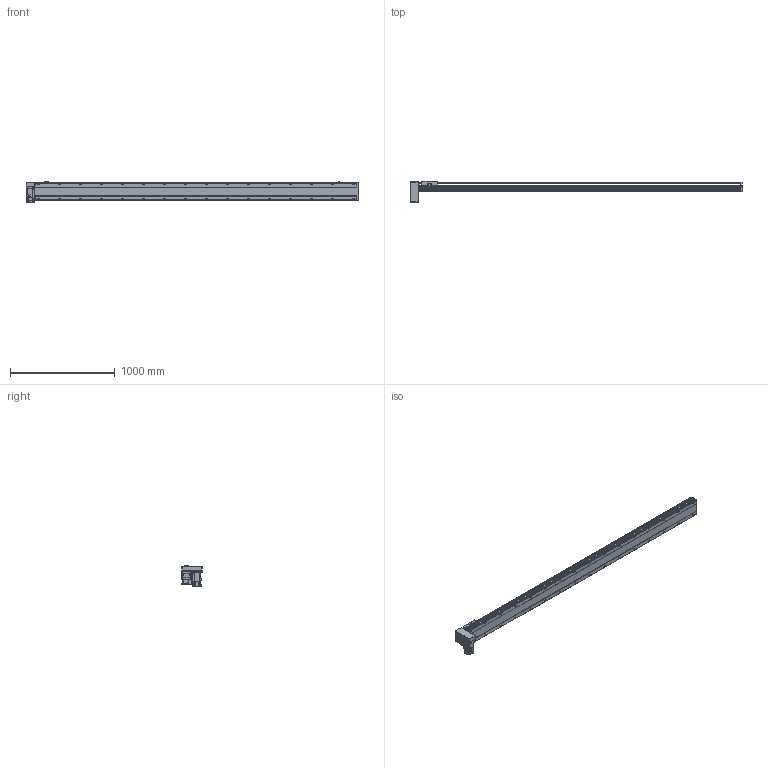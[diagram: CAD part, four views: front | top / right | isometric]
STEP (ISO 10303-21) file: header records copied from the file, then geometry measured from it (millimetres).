
FILE_DESCRIPTION(/* description */ ('STEP AP214'),/* implementation_level */ '2;1');
FILE_NAME(/* name */ 'PBS170-P40-S2800-RD-T75-C1-N(0)',/* time_stamp */ '2022-06-08T07:38:13+02:00',/* author */ ('License CC BY-ND 4.0'),/* organization */ ('CADENAS'),/* preprocessor_version */ 'ST-DEVELOPER v18.102',/* originating_system */ 'PARTsolutions',/* authorisation */ ' ');
FILE_SCHEMA (('AUTOMOTIVE_DESIGN {1 0 10303 214 3 1 1}'));
Length unit declared in the file: millimetre
Products named in the file (7): PBS170-P40-S2800-RD-T75-C1-N(0); PBS170_sensor; PBS170_plant; PBS170_sliser; T75-p1; PBS170T-RD_motors; PBS170-S2800()_body
Assembly tree (8 placements, depth 2):
  PBS170-P40-S2800-RD-T75-C1-N(0)
    PBS170_sensor  x3
    PBS170_plant
    PBS170_sliser
    T75-p1
    PBS170T-RD_motors
    PBS170-S2800()_body
Bounding box: 3163 x 201 x 205.3 mm (x, y, z)
Volume: 23818204.1 mm3; surface area: 2986693.5 mm2
Topology: 8 solids, 8 shells, 1210 faces, 3195 edges, 2082 vertices
Faces by surface type: plane 735, cylinder 403, cone 62, sphere 8, torus 2
Full cylindrical faces by diameter (mm): 3.242 x4, 4 x2, 4.4 x4, 4.5 x6, 4.917 x4, 6 x9, 6.647 x40, 7 x2, 7.5 x4, 8 x8, 8.5 x32, 10 x4, 10.5 x32, 11 x2, 30 x2, 40 x1, 70 x1
Entity records: 34782 total; most frequent: CARTESIAN_POINT 6609, DIRECTION 5860, ORIENTED_EDGE 5508, EDGE_CURVE 2754, AXIS2_PLACEMENT_3D 2077, VERTEX_POINT 1922, LINE 1706, VECTOR 1706
